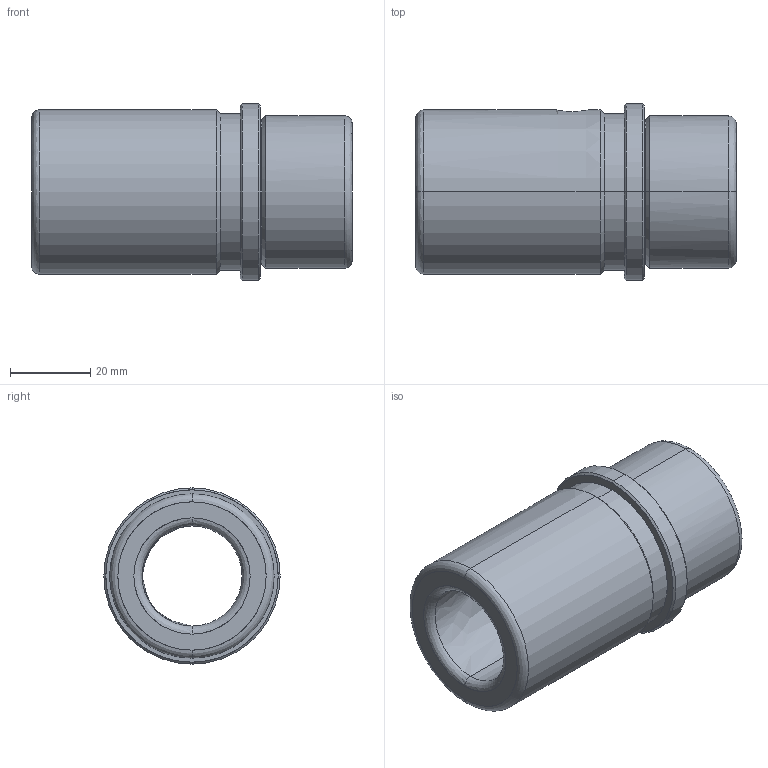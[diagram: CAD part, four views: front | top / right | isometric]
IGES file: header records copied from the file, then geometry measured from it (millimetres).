
Start section: START RECORD GO HERE.
Global section: file name: CF 655 25 x 80.igs; native system: DASSAULT SYSTEMES CATIA V5 R20 - www.3ds.com; preprocessor: CATIA Version 5 Release 20 ; author: Utente; organization: NB04-ASUS; date: 20201226.151201; units: millimetre
Bounding box: 80 x 44 x 44 mm (x, y, z)
Surface area: 18617.5 mm2 (no closed solid volume)
Topology: 0 solids, 0 shells, 37 faces, 252 edges, 252 vertices
Faces by surface type: revolution 32, plane 5
